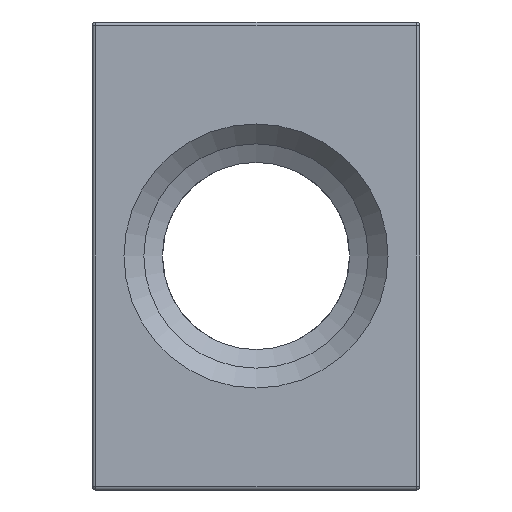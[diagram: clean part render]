
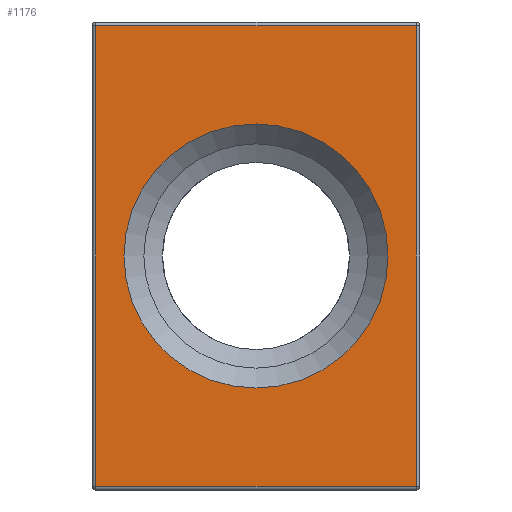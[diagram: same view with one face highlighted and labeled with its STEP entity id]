
A CAD part, left-side view. The second image highlights one B-rep face of the part: STEP entity #1176.
In plain terms, the highlighted planar face has unit normal (-1, 0, 0).
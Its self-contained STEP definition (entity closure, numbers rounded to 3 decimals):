
#66=FACE_BOUND('',#356,.T.);
#76=PLANE('',#1298);
#82=LINE('',#1912,#151);
#87=LINE('',#1934,#156);
#92=LINE('',#1941,#161);
#96=LINE('',#1947,#165);
#151=VECTOR('',#1484,10.);
#156=VECTOR('',#1511,10.);
#161=VECTOR('',#1520,10.);
#165=VECTOR('',#1528,10.);
#277=FACE_OUTER_BOUND('',#355,.T.);
#355=EDGE_LOOP('',(#874,#875,#876,#877));
#356=EDGE_LOOP('',(#878));
#441=CIRCLE('',#1299,11.286);
#501=VERTEX_POINT('',#1873);
#512=VERTEX_POINT('',#1900);
#515=VERTEX_POINT('',#1907);
#519=VERTEX_POINT('',#1927);
#529=VERTEX_POINT('',#1975);
#623=EDGE_CURVE('',#501,#515,#82,.T.);
#634=EDGE_CURVE('',#519,#512,#87,.T.);
#639=EDGE_CURVE('',#515,#519,#92,.T.);
#643=EDGE_CURVE('',#512,#501,#96,.T.);
#657=EDGE_CURVE('',#529,#529,#441,.T.);
#874=ORIENTED_EDGE('',*,*,#634,.F.);
#875=ORIENTED_EDGE('',*,*,#639,.F.);
#876=ORIENTED_EDGE('',*,*,#623,.F.);
#877=ORIENTED_EDGE('',*,*,#643,.F.);
#878=ORIENTED_EDGE('',*,*,#657,.F.);
#1176=ADVANCED_FACE('',(#277,#66),#76,.T.);
#1298=AXIS2_PLACEMENT_3D('',#1974,#1561,#1562);
#1299=AXIS2_PLACEMENT_3D('',#1976,#1563,#1564);
#1484=DIRECTION('',(0.,1.,0.));
#1511=DIRECTION('',(0.,-1.,0.));
#1520=DIRECTION('',(0.,0.,1.));
#1528=DIRECTION('',(0.,0.,-1.));
#1561=DIRECTION('center_axis',(-1.,0.,0.));
#1562=DIRECTION('ref_axis',(0.,0.,1.));
#1563=DIRECTION('center_axis',(-1.,0.,0.));
#1564=DIRECTION('ref_axis',(0.,1.,0.));
#1873=CARTESIAN_POINT('',(-90.,-13.7,-19.7));
#1900=CARTESIAN_POINT('',(-90.,-13.7,19.7));
#1907=CARTESIAN_POINT('',(-90.,13.7,-19.7));
#1912=CARTESIAN_POINT('',(-90.,0.,-19.7));
#1927=CARTESIAN_POINT('',(-90.,13.7,19.7));
#1934=CARTESIAN_POINT('',(-90.,0.,19.7));
#1941=CARTESIAN_POINT('',(-90.,13.7,-10.));
#1947=CARTESIAN_POINT('',(-90.,-13.7,-10.));
#1974=CARTESIAN_POINT('Origin',(-90.,0.,-20.));
#1975=CARTESIAN_POINT('',(-90.,-11.286,0.));
#1976=CARTESIAN_POINT('Origin',(-90.,0.,0.));
